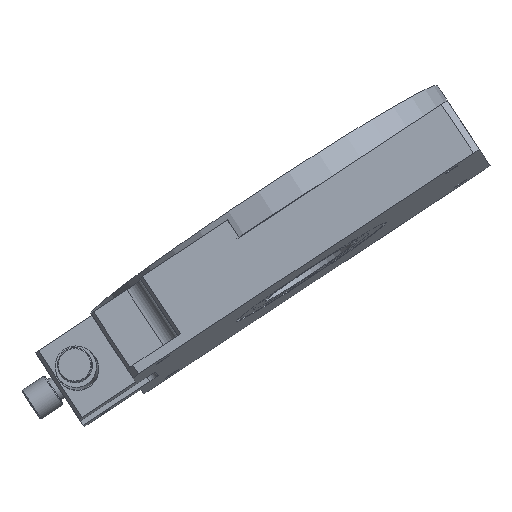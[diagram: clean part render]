
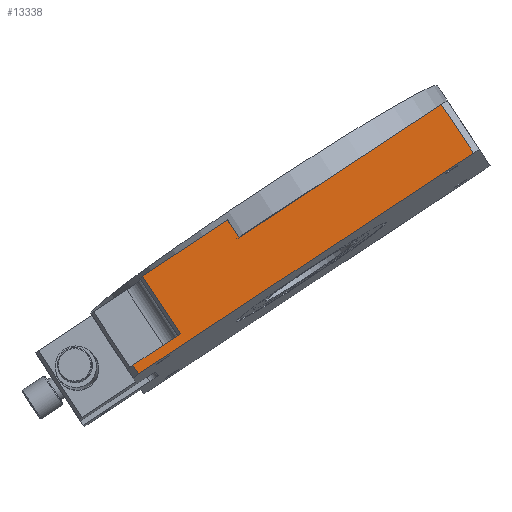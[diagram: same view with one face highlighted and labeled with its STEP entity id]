
A CAD part, front view. The second image highlights one B-rep face of the part: STEP entity #13338.
In plain terms, the highlighted planar face has unit normal (-0.026, -0.999, 0.04).
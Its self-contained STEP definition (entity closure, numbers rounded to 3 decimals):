
#140 = LINE ( 'NONE', #4432, #7027 ) ;
#246 = CARTESIAN_POINT ( 'NONE',  ( 74.231, 12.792, -139.439 ) ) ;
#683 = CARTESIAN_POINT ( 'NONE',  ( 57.351, 13.46, -133.817 ) ) ;
#823 = EDGE_CURVE ( 'NONE', #16305, #3639, #6138, .T. ) ;
#972 = CARTESIAN_POINT ( 'NONE',  ( 57.379, 13.457, -133.859 ) ) ;
#1381 = EDGE_CURVE ( 'NONE', #12537, #10130, #15693, .T. ) ;
#1435 = VERTEX_POINT ( 'NONE', #10321 ) ;
#1547 = VECTOR ( 'NONE', #12926, 1000. ) ;
#1557 = FACE_OUTER_BOUND ( 'NONE', #3852, .T. ) ;
#1875 = DIRECTION ( 'NONE',  ( -0.835, 0., -0.55 ) ) ;
#1967 = LINE ( 'NONE', #6112, #14990 ) ;
#2040 = ORIENTED_EDGE ( 'NONE', *, *, #12103, .T. ) ;
#2395 = DIRECTION ( 'NONE',  ( -0.026, -0.999, 0.04 ) ) ;
#3004 = EDGE_CURVE ( 'NONE', #3639, #1435, #6955, .T. ) ;
#3081 = VECTOR ( 'NONE', #3945, 1000. ) ;
#3089 = DIRECTION ( 'NONE',  ( -0.835, 0., -0.55 ) ) ;
#3639 = VERTEX_POINT ( 'NONE', #10959 ) ;
#3838 = VERTEX_POINT ( 'NONE', #8039 ) ;
#3842 = DIRECTION ( 'NONE',  ( 0.55, -0.048, -0.834 ) ) ;
#3852 = EDGE_LOOP ( 'NONE', ( #6942, #10424, #15325, #11265, #11680, #7291, #13126, #11444, #4583, #2040 ) ) ;
#3945 = DIRECTION ( 'NONE',  ( -0.835, 0., -0.55 ) ) ;
#4160 = CARTESIAN_POINT ( 'NONE',  ( 124.307, 12.649, -110.021 ) ) ;
#4243 = LINE ( 'NONE', #9209, #10982 ) ;
#4432 = CARTESIAN_POINT ( 'NONE',  ( 66.535, 13.46, -127.763 ) ) ;
#4583 = ORIENTED_EDGE ( 'NONE', *, *, #7595, .F. ) ;
#5110 = VERTEX_POINT ( 'NONE', #4160 ) ;
#6112 = CARTESIAN_POINT ( 'NONE',  ( 59.54, 13.198, -138.954 ) ) ;
#6138 = LINE ( 'NONE', #13885, #9054 ) ;
#6471 = DIRECTION ( 'NONE',  ( -0.835, 0., -0.55 ) ) ;
#6942 = ORIENTED_EDGE ( 'NONE', *, *, #1381, .T. ) ;
#6955 = LINE ( 'NONE', #8630, #8126 ) ;
#7027 = VECTOR ( 'NONE', #3089, 1000. ) ;
#7089 = CARTESIAN_POINT ( 'NONE',  ( 27.454, 12.649, -173.861 ) ) ;
#7291 = ORIENTED_EDGE ( 'NONE', *, *, #3004, .T. ) ;
#7326 = DIRECTION ( 'NONE',  ( -0.55, 0.048, 0.834 ) ) ;
#7474 = CARTESIAN_POINT ( 'NONE',  ( 66.563, 13.457, -127.805 ) ) ;
#7495 = DIRECTION ( 'NONE',  ( -0.835, 0., -0.55 ) ) ;
#7527 = EDGE_CURVE ( 'NONE', #13224, #10130, #11385, .T. ) ;
#7595 = EDGE_CURVE ( 'NONE', #5110, #13210, #9828, .T. ) ;
#8039 = CARTESIAN_POINT ( 'NONE',  ( 56.516, 13.46, -134.367 ) ) ;
#8126 = VECTOR ( 'NONE', #16144, 1000. ) ;
#8630 = CARTESIAN_POINT ( 'NONE',  ( 34.909, 13.198, -155.19 ) ) ;
#8794 = VECTOR ( 'NONE', #1875, 1000. ) ;
#9054 = VECTOR ( 'NONE', #7495, 1000. ) ;
#9209 = CARTESIAN_POINT ( 'NONE',  ( 26.63, 12.721, -172.61 ) ) ;
#9828 = LINE ( 'NONE', #11506, #3081 ) ;
#10010 = CARTESIAN_POINT ( 'NONE',  ( 113.347, 13.768, -89.179 ) ) ;
#10130 = VERTEX_POINT ( 'NONE', #972 ) ;
#10155 = CARTESIAN_POINT ( 'NONE',  ( 55.716, 13.602, -131.336 ) ) ;
#10321 = CARTESIAN_POINT ( 'NONE',  ( 39.582, 12.792, -162.278 ) ) ;
#10424 = ORIENTED_EDGE ( 'NONE', *, *, #7527, .F. ) ;
#10488 = CARTESIAN_POINT ( 'NONE',  ( 53.218, 13.746, -129.363 ) ) ;
#10959 = CARTESIAN_POINT ( 'NONE',  ( 28.587, 13.746, -145.599 ) ) ;
#10982 = VECTOR ( 'NONE', #11678, 1000. ) ;
#11262 = DIRECTION ( 'NONE',  ( -0.835, 0., -0.55 ) ) ;
#11265 = ORIENTED_EDGE ( 'NONE', *, *, #12586, .T. ) ;
#11341 = VERTEX_POINT ( 'NONE', #12729 ) ;
#11372 = AXIS2_PLACEMENT_3D ( 'NONE', #10010, #2395, #11262 ) ;
#11385 = LINE ( 'NONE', #10155, #14301 ) ;
#11396 = EDGE_CURVE ( 'NONE', #1435, #11341, #11751, .T. ) ;
#11444 = ORIENTED_EDGE ( 'NONE', *, *, #16297, .F. ) ;
#11506 = CARTESIAN_POINT ( 'NONE',  ( 67.74, 12.649, -147.307 ) ) ;
#11655 = CARTESIAN_POINT ( 'NONE',  ( 117.985, 13.198, -100.43 ) ) ;
#11678 = DIRECTION ( 'NONE',  ( -0.55, 0.048, 0.834 ) ) ;
#11680 = ORIENTED_EDGE ( 'NONE', *, *, #823, .T. ) ;
#11751 = LINE ( 'NONE', #246, #8794 ) ;
#12103 = EDGE_CURVE ( 'NONE', #5110, #12537, #13263, .T. ) ;
#12373 = VECTOR ( 'NONE', #6471, 1000. ) ;
#12457 = PLANE ( 'NONE',  #11372 ) ;
#12537 = VERTEX_POINT ( 'NONE', #14808 ) ;
#12586 = EDGE_CURVE ( 'NONE', #3838, #16305, #1967, .T. ) ;
#12729 = CARTESIAN_POINT ( 'NONE',  ( 25.805, 12.792, -171.359 ) ) ;
#12926 = DIRECTION ( 'NONE',  ( -0.55, 0.048, 0.834 ) ) ;
#13126 = ORIENTED_EDGE ( 'NONE', *, *, #11396, .T. ) ;
#13142 = EDGE_CURVE ( 'NONE', #13224, #3838, #140, .T. ) ;
#13210 = VERTEX_POINT ( 'NONE', #7089 ) ;
#13224 = VERTEX_POINT ( 'NONE', #683 ) ;
#13263 = LINE ( 'NONE', #11655, #1547 ) ;
#13338 = ADVANCED_FACE ( 'NONE', ( #1557 ), #12457, .T. ) ;
#13885 = CARTESIAN_POINT ( 'NONE',  ( 63.237, 13.746, -122.759 ) ) ;
#14301 = VECTOR ( 'NONE', #3842, 1000. ) ;
#14808 = CARTESIAN_POINT ( 'NONE',  ( 114.989, 13.457, -95.885 ) ) ;
#14990 = VECTOR ( 'NONE', #7326, 1000. ) ;
#15325 = ORIENTED_EDGE ( 'NONE', *, *, #13142, .T. ) ;
#15693 = LINE ( 'NONE', #7474, #12373 ) ;
#16144 = DIRECTION ( 'NONE',  ( 0.55, -0.048, -0.834 ) ) ;
#16297 = EDGE_CURVE ( 'NONE', #13210, #11341, #4243, .T. ) ;
#16305 = VERTEX_POINT ( 'NONE', #10488 ) ;
